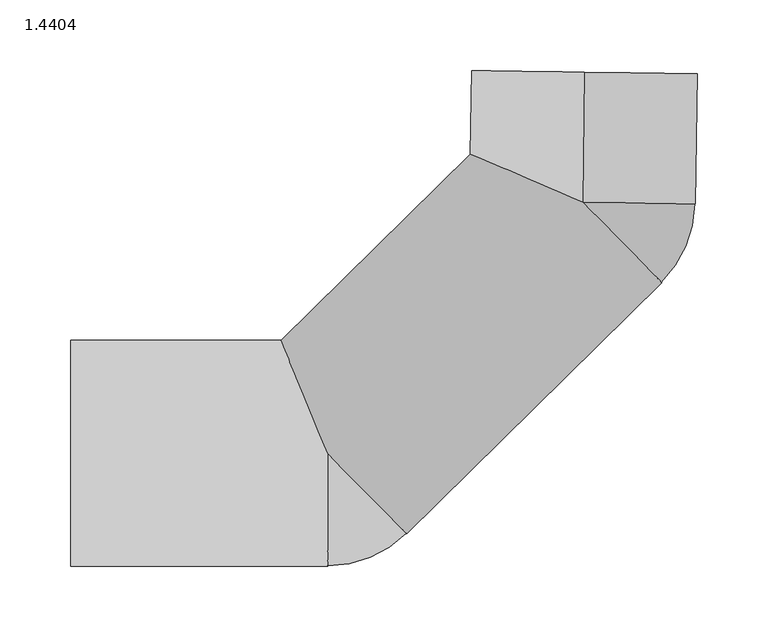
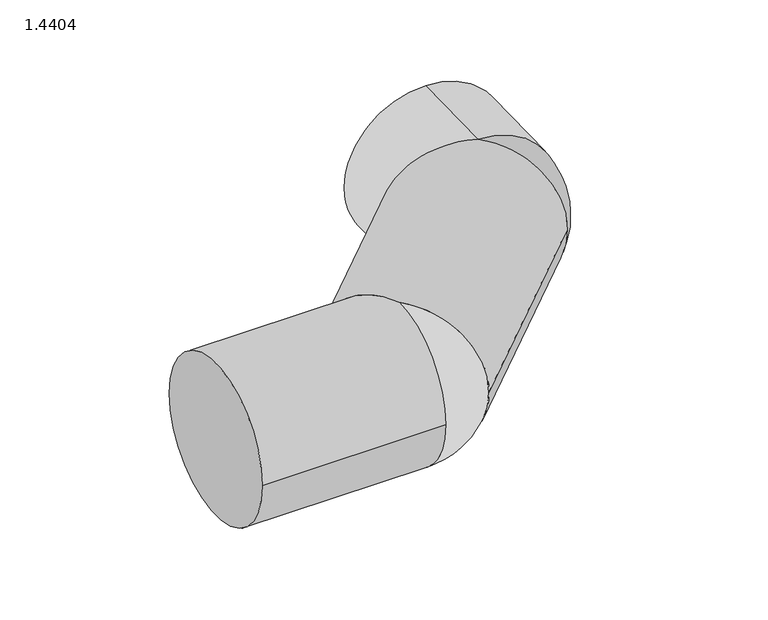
"""IFC4 building model written with IfcOpenShell, lengths in millimetres: pipe fitting geometry, PIF_ST_UN_ACO pipe long bend_ACO : 1.4404."""

from ifc_helpers import new_model, si_unit, point, frame, origin, place, context, project, spatial, circle_curve, ellipse_curve, trimmed, source, transform, mapped, element, save
from ifc_brep_helpers import plane_surface, cylinder_surface, revolved_surface, advanced_brep


def pipe_fitting_1_4404_e9e6778f(model_context):
    return source(origin(), model_context, "Body", "AdvancedBrep", [
        advanced_brep(
        [(-121.8572765, -56.99118, 0.0), (58.8124231, 120.9887984, 0.0), (2.6696997, 177.9799784, 80.0), (-76.8295644, 211.9623384, 0.0), (-210.7861829, 80.0, 0.0), (-178.0, 0.0, 80.0), (-178.0, 0.0, -80.0), (2.6696997, 177.9799784, -80.0), (-360.0, -80.0, 0.0), (-360.0, 80.0, 0.0), (-178.0, -80.0, 0.0), (4.0495445, 269.9696301, -80.0), (4.0495445, 269.9696301, 80.0)],
        [
            (0, 1),
            (1, 2, circle_curve(frame((2.6696997, 177.9799784, 0.0), z_axis=(-0.7123897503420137, -0.7017840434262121, 0.0), x_axis=(-0.7017840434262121, 0.7123897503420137, 0.0)), 80.0)),
            (2, 3, ellipse_curve(frame((2.6696997, 177.9799784, 0.0), z_axis=(-0.39305186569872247, -0.9195163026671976, 0.0), x_axis=(-0.9195163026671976, 0.39305186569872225, 0.0)), 86.4576994, 80.0)),
            (3, 4),
            (4, 5, ellipse_curve(frame((-178.0, 0.0, 0.0), z_axis=(0.9253079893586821, 0.3792164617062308, 0.0), x_axis=(0.3792164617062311, -0.9253079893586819, 0.0)), 86.4576994, 80.0)),
            (5, 0, circle_curve(frame((-178.0, 0.0, 0.0), z_axis=(0.7123897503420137, 0.7017840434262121, 0.0), x_axis=(-0.7017840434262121, 0.7123897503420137, 0.0)), 80.0)),
            (0, 6, circle_curve(frame((-178.0, 0.0, 0.0), z_axis=(0.7123897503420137, 0.7017840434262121, 0.0), x_axis=(-0.7017840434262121, 0.7123897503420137, 0.0)), 80.0)),
            (6, 4, ellipse_curve(frame((-178.0, 0.0, 0.0), z_axis=(0.9253079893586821, 0.3792164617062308, 0.0), x_axis=(0.3792164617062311, -0.9253079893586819, 0.0)), 86.4576994, 80.0)),
            (3, 7, ellipse_curve(frame((2.6696997, 177.9799784, 0.0), z_axis=(-0.39305186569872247, -0.9195163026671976, 0.0), x_axis=(-0.9195163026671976, 0.39305186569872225, 0.0)), 86.4576994, 80.0)),
            (7, 1, circle_curve(frame((2.6696997, 177.9799784, 0.0), z_axis=(-0.7123897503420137, -0.7017840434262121, 0.0), x_axis=(-0.7017840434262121, 0.7123897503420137, 0.0)), 80.0)),
            (8, 9, circle_curve(frame((-360.0, 0.0, 0.0), z_axis=(-1.0, 0.0, 0.0), x_axis=(0.0, 1.0, 0.0)), 80.0)),
            (9, 8, circle_curve(frame((-360.0, 0.0, 0.0), z_axis=(-1.0, 0.0, 0.0), x_axis=(0.0, 1.0, 0.0)), 80.0)),
            (9, 4),
            (6, 10, circle_curve(frame((-178.0, 0.0, 0.0), z_axis=(-1.0, 0.0, 0.0), x_axis=(0.0, 1.0, 0.0)), 80.0)),
            (10, 8),
            (10, 5, circle_curve(frame((-178.0, 0.0, 0.0), z_axis=(-1.0, 0.0, 0.0), x_axis=(0.0, 1.0, 0.0)), 80.0)),
            (11, 12, circle_curve(frame((4.0495445, 269.9696301, 0.0), z_axis=(0.0149983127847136, 0.9998875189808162, 0.0), x_axis=(0.0, 0.0, 1.0)), 80.0)),
            (12, 11, circle_curve(frame((4.0495445, 269.9696301, 0.0), z_axis=(0.0149983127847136, 0.9998875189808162, 0.0), x_axis=(0.0, 0.0, 1.0)), 80.0)),
            (11, 7),
            (2, 12),
            (2, 7, circle_curve(frame((2.6696997, 177.9799784, 0.0), z_axis=(0.0149983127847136, 0.9998875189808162, 0.0), x_axis=(0.0, 0.0, 1.0)), 80.0)),
        ],
        [
            cylinder_surface(frame((-178.0, 0.0, 0.0), z_axis=(-0.7123897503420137, -0.7017840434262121, 0.0), x_axis=(-0.7017840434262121, 0.7123897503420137, 0.0)), 80.0),
            plane_surface(frame((-360.0, 80.0, 0.0), z_axis=(-1.0, 0.0, 0.0), x_axis=(0.0, 0.0, -1.0))),
            cylinder_surface(frame((-360.0, 0.0, 0.0), z_axis=(1.0, 0.0, 0.0), x_axis=(0.0, 1.0, 0.0)), 80.0),
            revolved_surface(trimmed(ellipse_curve(frame((-178.0, 0.0, 0.0), z_axis=(1.0, 0.0, 0.0), x_axis=(0.0, 1.0, 0.0)), 80.0, 80.0), [point((-178.0, 0.0, 80.0))], [point((-178.0, 0.0, -80.0))], True, "CARTESIAN"), (-178.0, 0.0, -108.4043214), (0.0, 0.0, -1.0)),
            plane_surface(frame((4.0495445, 269.9696301, 80.0), z_axis=(0.014998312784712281, 0.9998875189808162, 0.0), x_axis=(0.9998875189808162, -0.014998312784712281, 0.0))),
            cylinder_surface(frame((4.0495445, 269.9696301, 0.0), z_axis=(-0.0149983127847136, -0.9998875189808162, 0.0), x_axis=(0.0, 0.0, 1.0)), 80.0),
            revolved_surface(trimmed(ellipse_curve(frame((2.6696997, 177.9799784, 0.0), z_axis=(-0.01499831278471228, -0.9998875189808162, 0.0), x_axis=(0.0, 0.0, 1.0)), 80.0, 80.0), [point((2.6696997, 177.9799784, -80.0))], [point((2.6696997, 177.9799784, 80.0))], True, "CARTESIAN"), (2.6696997, 177.9799784, -116.5906933), (0.0, 0.0, 1.0)),
        ],
        [
            (0, [[1, 2, 3, 4, 5, 6]]),
            (0, [[-1, 7, 8, -4, 9, 10]]),
            (1, [[11, 12]]),
            (2, [[-12, 13, -8, 14, 15]]),
            (2, [[-11, -15, 16, -5, -13]]),
            (3, [[-6, -16, -14, -7]]),
            (4, [[17, 18]]),
            (5, [[-17, 19, -9, -3, 20]]),
            (5, [[-18, -20, 21, -19]]),
            (6, [[-2, -10, -21]]),
        ],
    ),
    ])


if __name__ == "__main__":
    model = new_model("IFC4")
    model_context = context("Model", 3, world=origin())
    ifc_project = project(units=[si_unit("LENGTHUNIT", "METRE", prefix="MILLI")], contexts=[model_context])
    site = spatial("IfcSite", under=ifc_project)
    building = spatial("IfcBuilding", under=site)
    placement = place(None, origin())
    pipe_fitting_1_4404_shape = pipe_fitting_1_4404_e9e6778f(model_context)
    element("IfcPipeFitting", 1, ObjectType="PIF_ST_UN_ACO pipe long bend_ACO : 1.4404", at=placement, inside=building, context=model_context, shape_type="MappedRepresentation", body=[
        mapped(pipe_fitting_1_4404_shape, transform((0.0, 0.0, 0.0), x_axis=(1.0, 0.0, 0.0), y_axis=(0.0, 1.0, 0.0), z_axis=(0.0, 0.0, 1.0))),
    ])
    save(model, "model.ifc")
